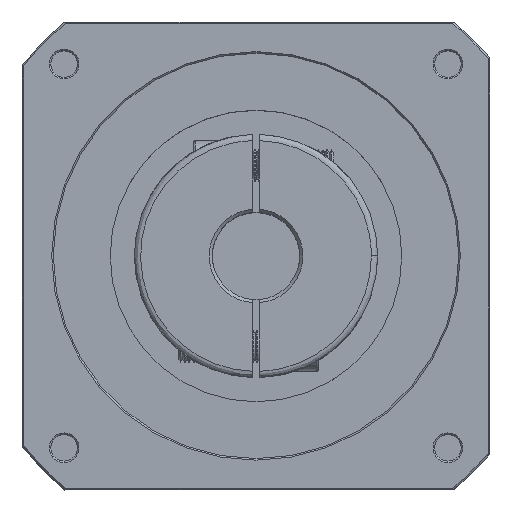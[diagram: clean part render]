
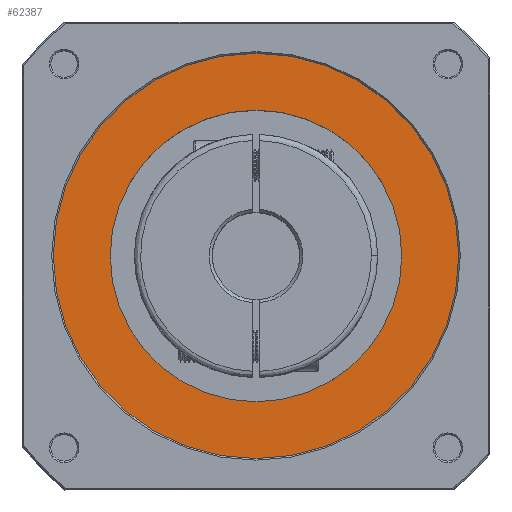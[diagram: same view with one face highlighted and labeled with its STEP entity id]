
A CAD part, top view. The second image highlights one B-rep face of the part: STEP entity #62387.
In plain terms, the highlighted planar face has unit normal (0, 0, -1).
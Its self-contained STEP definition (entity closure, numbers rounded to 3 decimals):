
#2460 = CARTESIAN_POINT ( 'NONE',  ( -65.78, -65.78, 221.5 ) ) ;
#4640 = DIRECTION ( 'NONE',  ( 0., 0., 1. ) ) ;
#7353 = CARTESIAN_POINT ( 'NONE',  ( -65., 0., 221.5 ) ) ;
#8229 = ORIENTED_EDGE ( 'NONE', *, *, #10264, .T. ) ;
#10264 = EDGE_CURVE ( 'NONE', #68508, #48441, #20603, .T. ) ;
#10494 = DIRECTION ( 'NONE',  ( 1., 0., 0. ) ) ;
#15564 = ORIENTED_EDGE ( 'NONE', *, *, #85982, .T. ) ;
#19616 = EDGE_LOOP ( 'NONE', ( #8229, #15564 ) ) ;
#20603 = CIRCLE ( 'NONE', #38150, 46.75 ) ;
#22966 = ORIENTED_EDGE ( 'NONE', *, *, #57322, .T. ) ;
#23368 = VERTEX_POINT ( 'NONE', #7353 ) ;
#25802 = DIRECTION ( 'NONE',  ( 0., 0., -1. ) ) ;
#26143 = CARTESIAN_POINT ( 'NONE',  ( 0., 0., 221.5 ) ) ;
#29228 = AXIS2_PLACEMENT_3D ( 'NONE', #73743, #25802, #81761 ) ;
#30550 = ORIENTED_EDGE ( 'NONE', *, *, #85965, .T. ) ;
#33499 = FACE_BOUND ( 'NONE', #19616, .T. ) ;
#34234 = DIRECTION ( 'NONE',  ( -1., 0., 0. ) ) ;
#38150 = AXIS2_PLACEMENT_3D ( 'NONE', #52422, #4640, #60495 ) ;
#38629 = CARTESIAN_POINT ( 'NONE',  ( 0., 0., 221.5 ) ) ;
#39645 = CIRCLE ( 'NONE', #39963, 46.75 ) ;
#39963 = AXIS2_PLACEMENT_3D ( 'NONE', #26143, #82116, #34234 ) ;
#46651 = DIRECTION ( 'NONE',  ( 1., 0., 0. ) ) ;
#48441 = VERTEX_POINT ( 'NONE', #89305 ) ;
#50191 = CARTESIAN_POINT ( 'NONE',  ( -46.75, 0., 221.5 ) ) ;
#52422 = CARTESIAN_POINT ( 'NONE',  ( 0., 0., 221.5 ) ) ;
#54763 = FACE_OUTER_BOUND ( 'NONE', #76437, .T. ) ;
#56017 = VERTEX_POINT ( 'NONE', #64780 ) ;
#57322 = EDGE_CURVE ( 'NONE', #56017, #23368, #97929, .T. ) ;
#58333 = DIRECTION ( 'NONE',  ( 0., 0., 1. ) ) ;
#60495 = DIRECTION ( 'NONE',  ( -1., 0., 0. ) ) ;
#62387 = ADVANCED_FACE ( 'NONE', ( #33499, #54763 ), #73730, .F. ) ;
#64780 = CARTESIAN_POINT ( 'NONE',  ( 65., 0., 221.5 ) ) ;
#67314 = AXIS2_PLACEMENT_3D ( 'NONE', #2460, #58333, #10494 ) ;
#68508 = VERTEX_POINT ( 'NONE', #50191 ) ;
#73730 = PLANE ( 'NONE',  #67314 ) ;
#73743 = CARTESIAN_POINT ( 'NONE',  ( 0., 0., 221.5 ) ) ;
#76437 = EDGE_LOOP ( 'NONE', ( #22966, #30550 ) ) ;
#81761 = DIRECTION ( 'NONE',  ( 1., 0., 0. ) ) ;
#82116 = DIRECTION ( 'NONE',  ( 0., 0., 1. ) ) ;
#84687 = CIRCLE ( 'NONE', #29228, 65. ) ;
#85128 = AXIS2_PLACEMENT_3D ( 'NONE', #38629, #94584, #46651 ) ;
#85965 = EDGE_CURVE ( 'NONE', #23368, #56017, #84687, .T. ) ;
#85982 = EDGE_CURVE ( 'NONE', #48441, #68508, #39645, .T. ) ;
#89305 = CARTESIAN_POINT ( 'NONE',  ( 46.75, 0., 221.5 ) ) ;
#94584 = DIRECTION ( 'NONE',  ( 0., 0., -1. ) ) ;
#97929 = CIRCLE ( 'NONE', #85128, 65. ) ;
